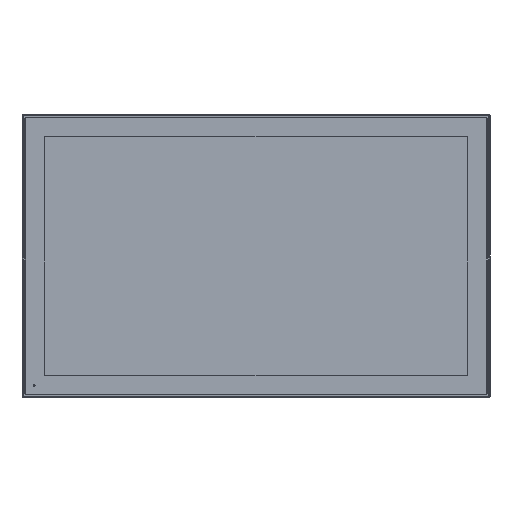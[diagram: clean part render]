
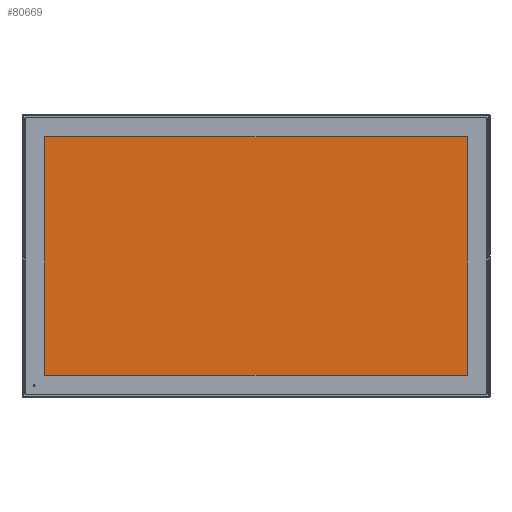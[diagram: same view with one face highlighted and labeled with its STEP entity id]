
A CAD part, top view. The second image highlights one B-rep face of the part: STEP entity #80669.
In plain terms, the highlighted planar face has unit normal (0, 0, 1) as drawn and (0, 1, 0) by its records, which use the part's own axes.
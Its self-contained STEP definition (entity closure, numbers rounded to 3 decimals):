
#1930 = VERTEX_POINT ( 'NONE', #58983 ) ;
#2617 = VECTOR ( 'NONE', #158321, 1000. ) ;
#2727 = LINE ( 'NONE', #79699, #2617 ) ;
#6417 = FACE_OUTER_BOUND ( 'NONE', #108920, .T. ) ;
#8370 = ORIENTED_EDGE ( 'NONE', *, *, #40125, .T. ) ;
#10678 = VECTOR ( 'NONE', #142080, 1000. ) ;
#12193 = DIRECTION ( 'NONE',  ( 1., 0., 0. ) ) ;
#15052 = EDGE_CURVE ( 'NONE', #17288, #23660, #110568, .T. ) ;
#15098 = VERTEX_POINT ( 'NONE', #146986 ) ;
#17288 = VERTEX_POINT ( 'NONE', #121226 ) ;
#23660 = VERTEX_POINT ( 'NONE', #161000 ) ;
#40125 = EDGE_CURVE ( 'NONE', #23660, #1930, #67777, .T. ) ;
#44761 = CARTESIAN_POINT ( 'NONE',  ( -238.92, 2.7, 134.655 ) ) ;
#51305 = ORIENTED_EDGE ( 'NONE', *, *, #56217, .T. ) ;
#56217 = EDGE_CURVE ( 'NONE', #1930, #15098, #2727, .T. ) ;
#58983 = CARTESIAN_POINT ( 'NONE',  ( 238.92, 2.7, -134.655 ) ) ;
#67777 = LINE ( 'NONE', #117561, #10678 ) ;
#79193 = VECTOR ( 'NONE', #162176, 1000. ) ;
#79699 = CARTESIAN_POINT ( 'NONE',  ( 238.92, 2.7, -134.655 ) ) ;
#80669 = ADVANCED_FACE ( 'NONE', ( #6417 ), #161160, .T. ) ;
#99100 = EDGE_CURVE ( 'NONE', #15098, #17288, #163366, .T. ) ;
#101819 = CARTESIAN_POINT ( 'NONE',  ( 0., 2.7, 0. ) ) ;
#108920 = EDGE_LOOP ( 'NONE', ( #135793, #8370, #51305, #117365 ) ) ;
#110568 = LINE ( 'NONE', #44761, #79193 ) ;
#117365 = ORIENTED_EDGE ( 'NONE', *, *, #99100, .T. ) ;
#117561 = CARTESIAN_POINT ( 'NONE',  ( 238.92, 2.7, 134.655 ) ) ;
#121226 = CARTESIAN_POINT ( 'NONE',  ( -238.92, 2.7, 134.655 ) ) ;
#121927 = CARTESIAN_POINT ( 'NONE',  ( -238.92, 2.7, -134.655 ) ) ;
#122761 = DIRECTION ( 'NONE',  ( 0., 0., 1. ) ) ;
#135793 = ORIENTED_EDGE ( 'NONE', *, *, #15052, .T. ) ;
#141970 = AXIS2_PLACEMENT_3D ( 'NONE', #101819, #166952, #12193 ) ;
#142080 = DIRECTION ( 'NONE',  ( 0., 0., -1. ) ) ;
#146986 = CARTESIAN_POINT ( 'NONE',  ( -238.92, 2.7, -134.655 ) ) ;
#152292 = VECTOR ( 'NONE', #122761, 1000. ) ;
#158321 = DIRECTION ( 'NONE',  ( -1., 0., 0. ) ) ;
#161000 = CARTESIAN_POINT ( 'NONE',  ( 238.92, 2.7, 134.655 ) ) ;
#161160 = PLANE ( 'NONE',  #141970 ) ;
#162176 = DIRECTION ( 'NONE',  ( 1., 0., 0. ) ) ;
#163366 = LINE ( 'NONE', #121927, #152292 ) ;
#166952 = DIRECTION ( 'NONE',  ( 0., 1., 0. ) ) ;
